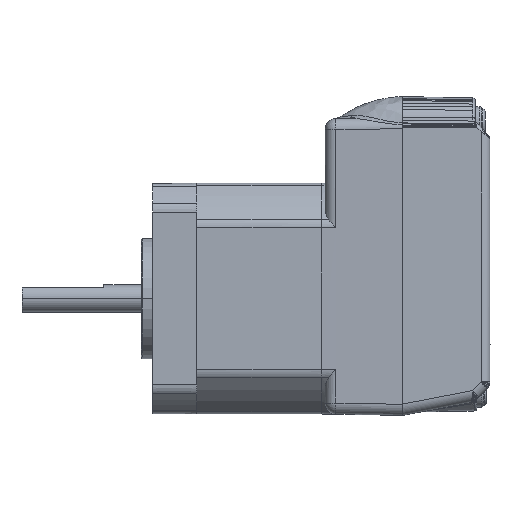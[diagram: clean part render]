
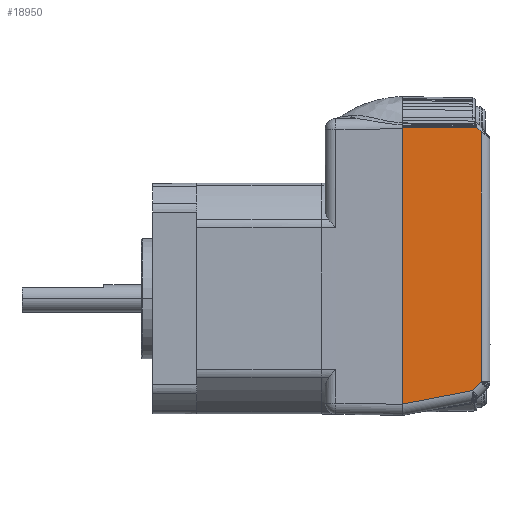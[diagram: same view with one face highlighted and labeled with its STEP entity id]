
A CAD part, left-side view. The second image highlights one B-rep face of the part: STEP entity #18950.
In plain terms, the highlighted planar face has unit normal (-1, -0.018, 0).
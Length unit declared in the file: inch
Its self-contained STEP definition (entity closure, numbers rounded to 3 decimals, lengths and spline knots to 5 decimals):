
#6861=EDGE_CURVE('NONE',#17467,#13502,#21022,.T.);
#7607=EDGE_CURVE('NONE',#13575,#20537,#21835,.T.);
#8915=EDGE_CURVE('NONE',#19188,#17467,#23273,.T.);
#10045=EDGE_CURVE('NONE',#13575,#19268,#24499,.F.);
#11653=VERTEX_POINT('NONE',#26240);
#12928=EDGE_CURVE('',#20537,#15959,#27644,.F.);
#13502=VERTEX_POINT('',#28268);
#13575=VERTEX_POINT('NONE',#28350);
#14845=EDGE_CURVE('NONE',#19188,#15959,#29721,.F.);
#15438=VERTEX_POINT('',#30375);
#15475=EDGE_CURVE('NONE',#11653,#19268,#30413,.T.);
#15959=VERTEX_POINT('',#30964);
#16064=EDGE_CURVE('NONE',#15438,#19393,#31079,.T.);
#17467=VERTEX_POINT('NONE',#32621);
#18950=ADVANCED_FACE('MDrive17 Plus[9]',(#34248),#34249,.T.);
#19188=VERTEX_POINT('NONE',#34513);
#19268=VERTEX_POINT('NONE',#34597);
#19393=VERTEX_POINT('',#34735);
#19472=EDGE_CURVE('NONE',#13502,#15438,#34822,.T.);
#19670=EDGE_CURVE('NONE',#19393,#11653,#35034,.T.);
#20537=VERTEX_POINT('',#35976);
#21022=B_SPLINE_CURVE_WITH_KNOTS('',3,(#37733,#37734,#37735,#37736),.UNSPECIFIED.,.F.,.F.,(4,4),(0.0,1.0),.UNSPECIFIED.);
#21835=B_SPLINE_CURVE_WITH_KNOTS('',3,(#41149,#41150,#41151,#41152,#41153,#41154,#41155),.UNSPECIFIED.,.F.,.F.,(4,3,4),(0.0,0.99951,0.99975),.UNSPECIFIED.);
#23273=LINE('',#47033,#47034);
#24499=LINE('',#53028,#53029);
#26240=CARTESIAN_POINT('',(-1.68485,0.19614,-0.65159));
#27644=LINE('',#65581,#65582);
#28268=CARTESIAN_POINT('',(-1.68487,0.19698,-0.65437));
#28350=CARTESIAN_POINT('',(-1.68542,0.22843,1.18117));
#29721=LINE('',#74956,#74957);
#30375=CARTESIAN_POINT('',(-1.68487,0.19651,-0.6535));
#30413=LINE('',#77573,#77574);
#30964=CARTESIAN_POINT('',(-1.69475,0.7632,-0.81292));
#31079=B_SPLINE_CURVE_WITH_KNOTS('',3,(#81116,#81117,#81118,#81119),.UNSPECIFIED.,.F.,.F.,(4,4),(0.0,1.0),.UNSPECIFIED.);
#32621=CARTESIAN_POINT('',(-1.68488,0.1976,-0.65511));
#34248=FACE_OUTER_BOUND('',#94268,.T.);
#34249=PLANE('',#94269);
#34513=CARTESIAN_POINT('',(-1.68593,0.25772,-0.71523));
#34597=CARTESIAN_POINT('',(-1.68485,0.19614,1.14831));
#34735=CARTESIAN_POINT('',(-1.68486,0.19623,-0.65256));
#34822=B_SPLINE_CURVE_WITH_KNOTS('',3,(#96536,#96537,#96538,#96539),.UNSPECIFIED.,.F.,.F.,(4,4),(0.0,1.0),.UNSPECIFIED.);
#35034=B_SPLINE_CURVE_WITH_KNOTS('',3,(#97372,#97373,#97374,#97375),.UNSPECIFIED.,.F.,.F.,(4,4),(0.0,1.0),.UNSPECIFIED.);
#35976=CARTESIAN_POINT('',(-1.69475,0.7632,1.18117));
#37733=CARTESIAN_POINT('',(-1.68487,0.1976,-0.65512));
#37734=CARTESIAN_POINT('',(-1.68486,0.19664,-0.65414));
#37735=CARTESIAN_POINT('',(-1.68485,0.19615,-0.65296));
#37736=CARTESIAN_POINT('',(-1.68485,0.19613,-0.65159));
#41149=CARTESIAN_POINT('',(-1.68541,0.22844,1.18117));
#41150=CARTESIAN_POINT('',(-1.68852,0.40665,1.18117));
#41151=CARTESIAN_POINT('',(-1.69163,0.58486,1.18117));
#41152=CARTESIAN_POINT('',(-1.69474,0.76307,1.18117));
#41153=CARTESIAN_POINT('',(-1.69475,0.76312,1.18117));
#41154=CARTESIAN_POINT('',(-1.69475,0.76316,1.18117));
#41155=CARTESIAN_POINT('',(-1.69475,0.7632,1.18117));
#47033=CARTESIAN_POINT('',(-1.68593,0.25771,-0.71522));
#47034=VECTOR('',#103492,1.);
#53028=CARTESIAN_POINT('',(-1.68485,0.19613,1.14829));
#53029=VECTOR('',#104408,1.0);
#65581=CARTESIAN_POINT('',(-1.69475,0.7632,-0.57856));
#65582=VECTOR('',#107089,1.0);
#74956=CARTESIAN_POINT('',(-1.69505,0.78049,-0.81626));
#74957=VECTOR('',#108592,1.0);
#77573=CARTESIAN_POINT('',(-1.68485,0.19614,-0.65159));
#77574=VECTOR('',#109139,1.0);
#81116=CARTESIAN_POINT('',(-1.68487,0.1976,-0.65512));
#81117=CARTESIAN_POINT('',(-1.68486,0.19664,-0.65414));
#81118=CARTESIAN_POINT('',(-1.68485,0.19615,-0.65296));
#81119=CARTESIAN_POINT('',(-1.68485,0.19613,-0.65159));
#94268=EDGE_LOOP('',(#112306,#112307,#112308,#112309,#112310,#112311,#112312,#112313,#112314,#112315));
#94269=AXIS2_PLACEMENT_3D('',#112316,#112317,#112318);
#96536=CARTESIAN_POINT('',(-1.68487,0.1976,-0.65512));
#96537=CARTESIAN_POINT('',(-1.68486,0.19664,-0.65414));
#96538=CARTESIAN_POINT('',(-1.68485,0.19615,-0.65296));
#96539=CARTESIAN_POINT('',(-1.68485,0.19613,-0.65159));
#97372=CARTESIAN_POINT('',(-1.68487,0.1976,-0.65512));
#97373=CARTESIAN_POINT('',(-1.68486,0.19664,-0.65414));
#97374=CARTESIAN_POINT('',(-1.68485,0.19615,-0.65296));
#97375=CARTESIAN_POINT('',(-1.68485,0.19613,-0.65159));
#103492=DIRECTION('',(0.012,-0.707,0.707));
#104408=DIRECTION('',(-0.012,0.701,0.713));
#107089=DIRECTION('',(0.,0.,1.0));
#108592=DIRECTION('',(0.017,-0.982,0.19));
#109139=DIRECTION('',(0.,0.,1.0));
#112306=ORIENTED_EDGE('',*,*,#12928,.T.);
#112307=ORIENTED_EDGE('',*,*,#14845,.F.);
#112308=ORIENTED_EDGE('',*,*,#8915,.T.);
#112309=ORIENTED_EDGE('',*,*,#6861,.T.);
#112310=ORIENTED_EDGE('',*,*,#19472,.T.);
#112311=ORIENTED_EDGE('',*,*,#16064,.T.);
#112312=ORIENTED_EDGE('',*,*,#19670,.T.);
#112313=ORIENTED_EDGE('',*,*,#15475,.T.);
#112314=ORIENTED_EDGE('',*,*,#10045,.F.);
#112315=ORIENTED_EDGE('',*,*,#7607,.T.);
#112316=CARTESIAN_POINT('',(-1.69475,0.76334,-0.81417));
#112317=DIRECTION('',(-1.,-0.017,0.));
#112318=DIRECTION('',(-0.017,1.,0.));
